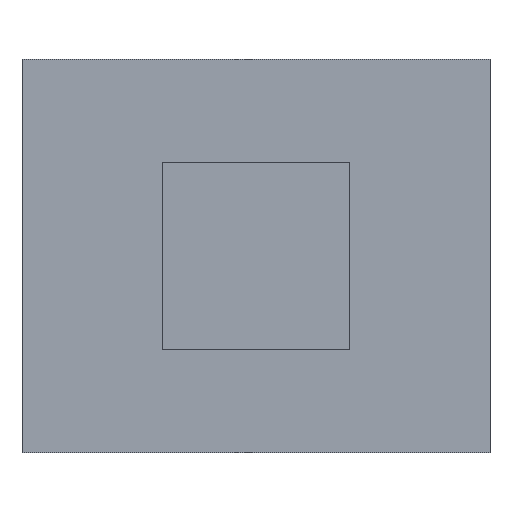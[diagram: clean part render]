
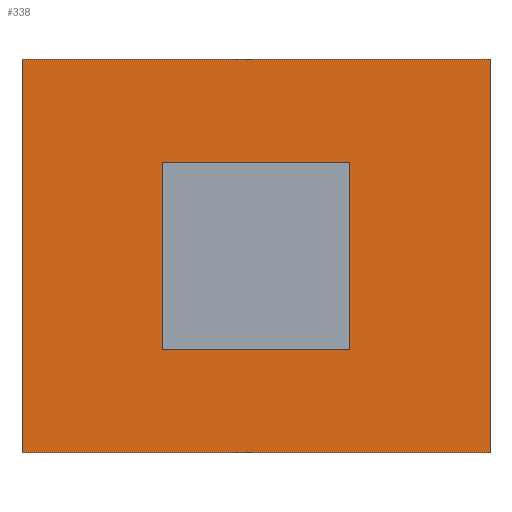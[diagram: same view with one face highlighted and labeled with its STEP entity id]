
A CAD part, top view. The second image highlights one B-rep face of the part: STEP entity #338.
In plain terms, the highlighted planar face has unit normal (0, 0, 1).
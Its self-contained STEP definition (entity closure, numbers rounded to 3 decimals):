
#44 = PLANE('',#45);
#45 = AXIS2_PLACEMENT_3D('',#46,#47,#48);
#46 = CARTESIAN_POINT('',(25.,10.885,1.185));
#47 = DIRECTION('',(1.,0.,0.));
#48 = DIRECTION('',(-0.,0.,1.));
#72 = PLANE('',#73);
#73 = AXIS2_PLACEMENT_3D('',#74,#75,#76);
#74 = CARTESIAN_POINT('',(12.113,0.,1.187));
#75 = DIRECTION('',(-0.,-1.,-0.));
#76 = DIRECTION('',(0.,0.,-1.));
#100 = PLANE('',#101);
#101 = AXIS2_PLACEMENT_3D('',#102,#103,#104);
#102 = CARTESIAN_POINT('',(0.,10.885,0.415));
#103 = DIRECTION('',(-1.,-0.,-0.));
#104 = DIRECTION('',(0.,0.,-1.));
#126 = PLANE('',#127);
#127 = AXIS2_PLACEMENT_3D('',#128,#129,#130);
#128 = CARTESIAN_POINT('',(12.887,21.,1.187));
#129 = DIRECTION('',(0.,1.,0.));
#130 = DIRECTION('',(0.,-0.,1.));
#142 = VERTEX_POINT('',#143);
#143 = CARTESIAN_POINT('',(25.,21.,1.6));
#164 = EDGE_CURVE('',#165,#142,#167,.T.);
#165 = VERTEX_POINT('',#166);
#166 = CARTESIAN_POINT('',(25.,0.,1.6));
#167 = SURFACE_CURVE('',#168,(#172,#179),.PCURVE_S1.);
#168 = LINE('',#169,#170);
#169 = CARTESIAN_POINT('',(25.,0.,1.6));
#170 = VECTOR('',#171,1.);
#171 = DIRECTION('',(0.,1.,0.));
#172 = PCURVE('',#44,#173);
#173 = DEFINITIONAL_REPRESENTATION('',(#174),#178);
#174 = LINE('',#175,#176);
#175 = CARTESIAN_POINT('',(0.415,10.885));
#176 = VECTOR('',#177,1.);
#177 = DIRECTION('',(0.,-1.));
#178 = ( GEOMETRIC_REPRESENTATION_CONTEXT(2) 
PARAMETRIC_REPRESENTATION_CONTEXT() REPRESENTATION_CONTEXT('2D SPACE',''
  ) );
#179 = PCURVE('',#180,#185);
#180 = PLANE('',#181);
#181 = AXIS2_PLACEMENT_3D('',#182,#183,#184);
#182 = CARTESIAN_POINT('',(22.907,11.02,1.6));
#183 = DIRECTION('',(0.,0.,1.));
#184 = DIRECTION('',(1.,0.,-0.));
#185 = DEFINITIONAL_REPRESENTATION('',(#186),#190);
#186 = LINE('',#187,#188);
#187 = CARTESIAN_POINT('',(2.093,-11.02));
#188 = VECTOR('',#189,1.);
#189 = DIRECTION('',(0.,1.));
#190 = ( GEOMETRIC_REPRESENTATION_CONTEXT(2) 
PARAMETRIC_REPRESENTATION_CONTEXT() REPRESENTATION_CONTEXT('2D SPACE',''
  ) );
#218 = VERTEX_POINT('',#219);
#219 = CARTESIAN_POINT('',(0.,21.,1.6));
#242 = VERTEX_POINT('',#243);
#243 = CARTESIAN_POINT('',(0.,0.,1.6));
#264 = EDGE_CURVE('',#218,#242,#265,.T.);
#265 = SURFACE_CURVE('',#266,(#270,#277),.PCURVE_S1.);
#266 = LINE('',#267,#268);
#267 = CARTESIAN_POINT('',(0.,21.,1.6));
#268 = VECTOR('',#269,1.);
#269 = DIRECTION('',(0.,-1.,0.));
#270 = PCURVE('',#100,#271);
#271 = DEFINITIONAL_REPRESENTATION('',(#272),#276);
#272 = LINE('',#273,#274);
#273 = CARTESIAN_POINT('',(-1.185,-10.115));
#274 = VECTOR('',#275,1.);
#275 = DIRECTION('',(0.,1.));
#276 = ( GEOMETRIC_REPRESENTATION_CONTEXT(2) 
PARAMETRIC_REPRESENTATION_CONTEXT() REPRESENTATION_CONTEXT('2D SPACE',''
  ) );
#277 = PCURVE('',#180,#278);
#278 = DEFINITIONAL_REPRESENTATION('',(#279),#283);
#279 = LINE('',#280,#281);
#280 = CARTESIAN_POINT('',(-22.907,9.98));
#281 = VECTOR('',#282,1.);
#282 = DIRECTION('',(0.,-1.));
#283 = ( GEOMETRIC_REPRESENTATION_CONTEXT(2) 
PARAMETRIC_REPRESENTATION_CONTEXT() REPRESENTATION_CONTEXT('2D SPACE',''
  ) );
#288 = EDGE_CURVE('',#165,#242,#289,.T.);
#289 = SURFACE_CURVE('',#290,(#294,#301),.PCURVE_S1.);
#290 = LINE('',#291,#292);
#291 = CARTESIAN_POINT('',(25.,0.,1.6));
#292 = VECTOR('',#293,1.);
#293 = DIRECTION('',(-1.,0.,0.));
#294 = PCURVE('',#72,#295);
#295 = DEFINITIONAL_REPRESENTATION('',(#296),#300);
#296 = LINE('',#297,#298);
#297 = CARTESIAN_POINT('',(-0.413,12.887));
#298 = VECTOR('',#299,1.);
#299 = DIRECTION('',(0.,-1.));
#300 = ( GEOMETRIC_REPRESENTATION_CONTEXT(2) 
PARAMETRIC_REPRESENTATION_CONTEXT() REPRESENTATION_CONTEXT('2D SPACE',''
  ) );
#301 = PCURVE('',#180,#302);
#302 = DEFINITIONAL_REPRESENTATION('',(#303),#307);
#303 = LINE('',#304,#305);
#304 = CARTESIAN_POINT('',(2.093,-11.02));
#305 = VECTOR('',#306,1.);
#306 = DIRECTION('',(-1.,0.));
#307 = ( GEOMETRIC_REPRESENTATION_CONTEXT(2) 
PARAMETRIC_REPRESENTATION_CONTEXT() REPRESENTATION_CONTEXT('2D SPACE',''
  ) );
#315 = EDGE_CURVE('',#142,#218,#316,.T.);
#316 = SURFACE_CURVE('',#317,(#321,#328),.PCURVE_S1.);
#317 = LINE('',#318,#319);
#318 = CARTESIAN_POINT('',(25.,21.,1.6));
#319 = VECTOR('',#320,1.);
#320 = DIRECTION('',(-1.,0.,0.));
#321 = PCURVE('',#126,#322);
#322 = DEFINITIONAL_REPRESENTATION('',(#323),#327);
#323 = LINE('',#324,#325);
#324 = CARTESIAN_POINT('',(0.413,12.113));
#325 = VECTOR('',#326,1.);
#326 = DIRECTION('',(0.,-1.));
#327 = ( GEOMETRIC_REPRESENTATION_CONTEXT(2) 
PARAMETRIC_REPRESENTATION_CONTEXT() REPRESENTATION_CONTEXT('2D SPACE',''
  ) );
#328 = PCURVE('',#180,#329);
#329 = DEFINITIONAL_REPRESENTATION('',(#330),#334);
#330 = LINE('',#331,#332);
#331 = CARTESIAN_POINT('',(2.093,9.98));
#332 = VECTOR('',#333,1.);
#333 = DIRECTION('',(-1.,0.));
#334 = ( GEOMETRIC_REPRESENTATION_CONTEXT(2) 
PARAMETRIC_REPRESENTATION_CONTEXT() REPRESENTATION_CONTEXT('2D SPACE',''
  ) );
#338 = ADVANCED_FACE('',(#339,#345),#180,.T.);
#339 = FACE_BOUND('',#340,.T.);
#340 = EDGE_LOOP('',(#341,#342,#343,#344));
#341 = ORIENTED_EDGE('',*,*,#164,.T.);
#342 = ORIENTED_EDGE('',*,*,#315,.T.);
#343 = ORIENTED_EDGE('',*,*,#264,.T.);
#344 = ORIENTED_EDGE('',*,*,#288,.F.);
#345 = FACE_BOUND('',#346,.T.);
#346 = EDGE_LOOP('',(#347,#377,#405,#433));
#347 = ORIENTED_EDGE('',*,*,#348,.F.);
#348 = EDGE_CURVE('',#349,#351,#353,.T.);
#349 = VERTEX_POINT('',#350);
#350 = CARTESIAN_POINT('',(17.5,15.5,1.6));
#351 = VERTEX_POINT('',#352);
#352 = CARTESIAN_POINT('',(7.5,15.5,1.6));
#353 = SURFACE_CURVE('',#354,(#358,#365),.PCURVE_S1.);
#354 = LINE('',#355,#356);
#355 = CARTESIAN_POINT('',(17.5,15.5,1.6));
#356 = VECTOR('',#357,1.);
#357 = DIRECTION('',(-1.,0.,0.));
#358 = PCURVE('',#180,#359);
#359 = DEFINITIONAL_REPRESENTATION('',(#360),#364);
#360 = LINE('',#361,#362);
#361 = CARTESIAN_POINT('',(-5.407,4.48));
#362 = VECTOR('',#363,1.);
#363 = DIRECTION('',(-1.,0.));
#364 = ( GEOMETRIC_REPRESENTATION_CONTEXT(2) 
PARAMETRIC_REPRESENTATION_CONTEXT() REPRESENTATION_CONTEXT('2D SPACE',''
  ) );
#365 = PCURVE('',#366,#371);
#366 = PLANE('',#367);
#367 = AXIS2_PLACEMENT_3D('',#368,#369,#370);
#368 = CARTESIAN_POINT('',(13.698,15.5,6.298));
#369 = DIRECTION('',(0.,1.,0.));
#370 = DIRECTION('',(0.,-0.,1.));
#371 = DEFINITIONAL_REPRESENTATION('',(#372),#376);
#372 = LINE('',#373,#374);
#373 = CARTESIAN_POINT('',(-4.698,3.802));
#374 = VECTOR('',#375,1.);
#375 = DIRECTION('',(0.,-1.));
#376 = ( GEOMETRIC_REPRESENTATION_CONTEXT(2) 
PARAMETRIC_REPRESENTATION_CONTEXT() REPRESENTATION_CONTEXT('2D SPACE',''
  ) );
#377 = ORIENTED_EDGE('',*,*,#378,.T.);
#378 = EDGE_CURVE('',#349,#379,#381,.T.);
#379 = VERTEX_POINT('',#380);
#380 = CARTESIAN_POINT('',(17.5,5.5,1.6));
#381 = SURFACE_CURVE('',#382,(#386,#393),.PCURVE_S1.);
#382 = LINE('',#383,#384);
#383 = CARTESIAN_POINT('',(17.5,15.5,1.6));
#384 = VECTOR('',#385,1.);
#385 = DIRECTION('',(0.,-1.,0.));
#386 = PCURVE('',#180,#387);
#387 = DEFINITIONAL_REPRESENTATION('',(#388),#392);
#388 = LINE('',#389,#390);
#389 = CARTESIAN_POINT('',(-5.407,4.48));
#390 = VECTOR('',#391,1.);
#391 = DIRECTION('',(0.,-1.));
#392 = ( GEOMETRIC_REPRESENTATION_CONTEXT(2) 
PARAMETRIC_REPRESENTATION_CONTEXT() REPRESENTATION_CONTEXT('2D SPACE',''
  ) );
#393 = PCURVE('',#394,#399);
#394 = PLANE('',#395);
#395 = AXIS2_PLACEMENT_3D('',#396,#397,#398);
#396 = CARTESIAN_POINT('',(17.5,11.698,6.298));
#397 = DIRECTION('',(1.,0.,0.));
#398 = DIRECTION('',(-0.,0.,1.));
#399 = DEFINITIONAL_REPRESENTATION('',(#400),#404);
#400 = LINE('',#401,#402);
#401 = CARTESIAN_POINT('',(-4.698,-3.802));
#402 = VECTOR('',#403,1.);
#403 = DIRECTION('',(0.,1.));
#404 = ( GEOMETRIC_REPRESENTATION_CONTEXT(2) 
PARAMETRIC_REPRESENTATION_CONTEXT() REPRESENTATION_CONTEXT('2D SPACE',''
  ) );
#405 = ORIENTED_EDGE('',*,*,#406,.F.);
#406 = EDGE_CURVE('',#407,#379,#409,.T.);
#407 = VERTEX_POINT('',#408);
#408 = CARTESIAN_POINT('',(7.5,5.5,1.6));
#409 = SURFACE_CURVE('',#410,(#414,#421),.PCURVE_S1.);
#410 = LINE('',#411,#412);
#411 = CARTESIAN_POINT('',(7.5,5.5,1.6));
#412 = VECTOR('',#413,1.);
#413 = DIRECTION('',(1.,0.,0.));
#414 = PCURVE('',#180,#415);
#415 = DEFINITIONAL_REPRESENTATION('',(#416),#420);
#416 = LINE('',#417,#418);
#417 = CARTESIAN_POINT('',(-15.407,-5.52));
#418 = VECTOR('',#419,1.);
#419 = DIRECTION('',(1.,0.));
#420 = ( GEOMETRIC_REPRESENTATION_CONTEXT(2) 
PARAMETRIC_REPRESENTATION_CONTEXT() REPRESENTATION_CONTEXT('2D SPACE',''
  ) );
#421 = PCURVE('',#422,#427);
#422 = PLANE('',#423);
#423 = AXIS2_PLACEMENT_3D('',#424,#425,#426);
#424 = CARTESIAN_POINT('',(11.302,5.5,6.298));
#425 = DIRECTION('',(-0.,-1.,-0.));
#426 = DIRECTION('',(0.,0.,-1.));
#427 = DEFINITIONAL_REPRESENTATION('',(#428),#432);
#428 = LINE('',#429,#430);
#429 = CARTESIAN_POINT('',(4.698,-3.802));
#430 = VECTOR('',#431,1.);
#431 = DIRECTION('',(0.,1.));
#432 = ( GEOMETRIC_REPRESENTATION_CONTEXT(2) 
PARAMETRIC_REPRESENTATION_CONTEXT() REPRESENTATION_CONTEXT('2D SPACE',''
  ) );
#433 = ORIENTED_EDGE('',*,*,#434,.F.);
#434 = EDGE_CURVE('',#351,#407,#435,.T.);
#435 = SURFACE_CURVE('',#436,(#440,#447),.PCURVE_S1.);
#436 = LINE('',#437,#438);
#437 = CARTESIAN_POINT('',(7.5,15.5,1.6));
#438 = VECTOR('',#439,1.);
#439 = DIRECTION('',(0.,-1.,0.));
#440 = PCURVE('',#180,#441);
#441 = DEFINITIONAL_REPRESENTATION('',(#442),#446);
#442 = LINE('',#443,#444);
#443 = CARTESIAN_POINT('',(-15.407,4.48));
#444 = VECTOR('',#445,1.);
#445 = DIRECTION('',(0.,-1.));
#446 = ( GEOMETRIC_REPRESENTATION_CONTEXT(2) 
PARAMETRIC_REPRESENTATION_CONTEXT() REPRESENTATION_CONTEXT('2D SPACE',''
  ) );
#447 = PCURVE('',#448,#453);
#448 = PLANE('',#449);
#449 = AXIS2_PLACEMENT_3D('',#450,#451,#452);
#450 = CARTESIAN_POINT('',(7.5,11.698,3.902));
#451 = DIRECTION('',(-1.,-0.,-0.));
#452 = DIRECTION('',(0.,0.,-1.));
#453 = DEFINITIONAL_REPRESENTATION('',(#454),#458);
#454 = LINE('',#455,#456);
#455 = CARTESIAN_POINT('',(2.302,-3.802));
#456 = VECTOR('',#457,1.);
#457 = DIRECTION('',(0.,1.));
#458 = ( GEOMETRIC_REPRESENTATION_CONTEXT(2) 
PARAMETRIC_REPRESENTATION_CONTEXT() REPRESENTATION_CONTEXT('2D SPACE',''
  ) );
